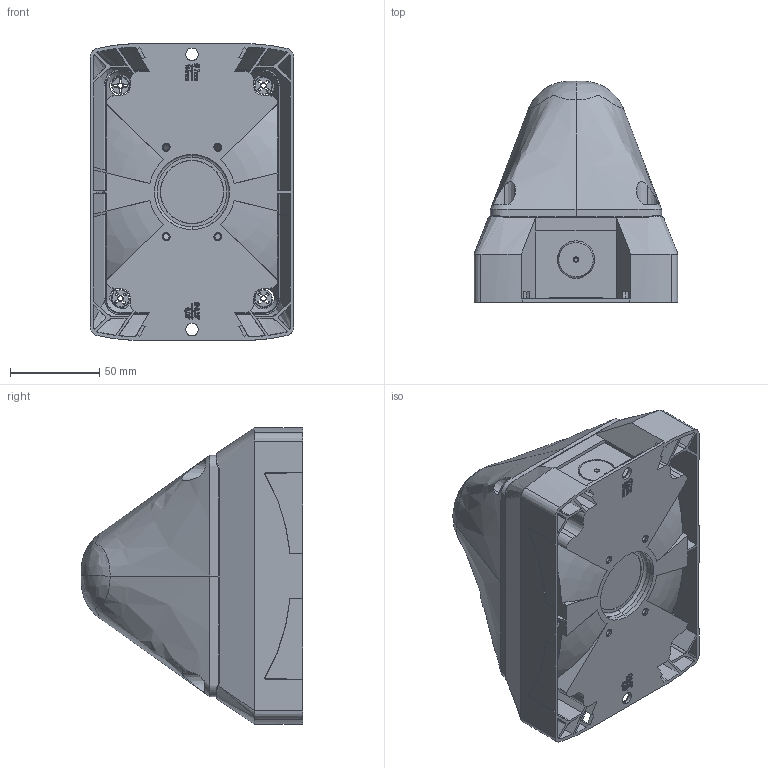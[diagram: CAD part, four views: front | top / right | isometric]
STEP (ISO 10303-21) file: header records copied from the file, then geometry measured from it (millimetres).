
FILE_DESCRIPTION (( 'STEP AP214' ), '1' );
FILE_NAME ('PYRA_X_M_30360-200.STEP', '2014-03-18T14:03:17', ( '' ), ( '' ), 'SwSTEP 2.0', 'SolidWorks 2012', '' );
FILE_SCHEMA (( 'AUTOMOTIVE_DESIGN' ));
Length unit declared in the file: millimetre
Products named in the file (1): PYRA_X_M_30360-200
Bounding box: 114 x 124 x 166 mm (x, y, z)
Surface area: 114740.3 mm2 (no closed solid volume)
Topology: 0 solids, 32 shells, 520 faces, 2325 edges, 1796 vertices
Faces by surface type: plane 246, bspline 115, cone 109, torus 28, cylinder 21, sphere 1
Entity records: 47013 total; most frequent: CARTESIAN_POINT 25051, ORIENTED_EDGE 3288, DIRECTION 2541, EDGE_CURVE 2324, VERTEX_POINT 1796, VECTOR 991, LINE 991, B_SPLINE_CURVE_WITH_KNOTS 940
